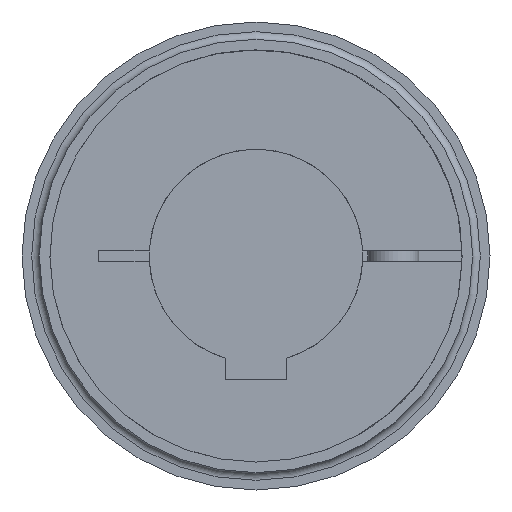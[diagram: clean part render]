
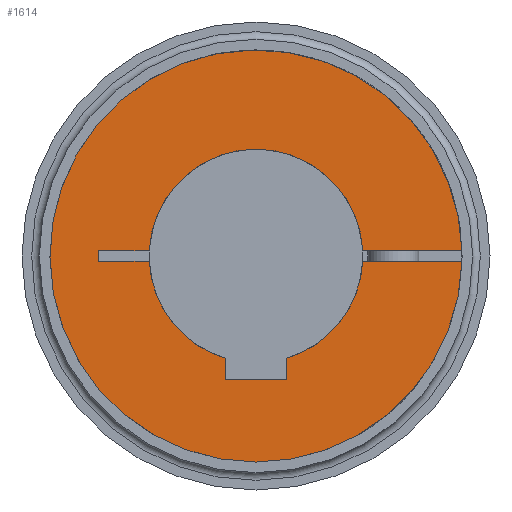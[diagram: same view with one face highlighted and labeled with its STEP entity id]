
A CAD part, left-side view. The second image highlights one B-rep face of the part: STEP entity #1614.
In plain terms, the highlighted planar face has unit normal (-1, 0, 0).
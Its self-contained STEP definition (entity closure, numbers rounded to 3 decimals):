
#24=PLANE('',#1855);
#149=LINE('',#2938,#252);
#152=LINE('',#2944,#255);
#153=LINE('',#2946,#256);
#164=LINE('',#2967,#267);
#165=LINE('',#2969,#268);
#166=LINE('',#2971,#269);
#167=LINE('',#2973,#270);
#168=LINE('',#2974,#271);
#252=VECTOR('',#2265,1.);
#255=VECTOR('',#2270,1.);
#256=VECTOR('',#2273,1.);
#267=VECTOR('',#2296,1.);
#268=VECTOR('',#2299,1.);
#269=VECTOR('',#2300,1.);
#270=VECTOR('',#2301,1.);
#271=VECTOR('',#2302,1.);
#387=FACE_OUTER_BOUND('',#490,.T.);
#490=EDGE_LOOP('',(#1332,#1333,#1334,#1335,#1336,#1337,#1338,#1339,#1340,
#1341,#1342,#1343,#1344));
#652=CIRCLE('',#1790,40.5);
#655=CIRCLE('',#1793,40.5);
#686=CIRCLE('',#1839,21.);
#689=CIRCLE('',#1843,21.);
#691=CIRCLE('',#1845,21.);
#761=VERTEX_POINT('',#2634);
#762=VERTEX_POINT('',#2636);
#767=VERTEX_POINT('',#2646);
#808=VERTEX_POINT('',#2908);
#809=VERTEX_POINT('',#2909);
#814=VERTEX_POINT('',#2920);
#815=VERTEX_POINT('',#2922);
#818=VERTEX_POINT('',#2928);
#819=VERTEX_POINT('',#2930);
#821=VERTEX_POINT('',#2936);
#823=VERTEX_POINT('',#2942);
#828=VERTEX_POINT('',#2970);
#829=VERTEX_POINT('',#2972);
#946=EDGE_CURVE('',#761,#762,#652,.T.);
#952=EDGE_CURVE('',#767,#761,#655,.T.);
#1005=EDGE_CURVE('',#808,#809,#686,.T.);
#1011=EDGE_CURVE('',#815,#814,#689,.T.);
#1015=EDGE_CURVE('',#819,#818,#691,.T.);
#1019=EDGE_CURVE('',#818,#821,#149,.T.);
#1022=EDGE_CURVE('',#821,#823,#152,.T.);
#1023=EDGE_CURVE('',#823,#815,#153,.T.);
#1034=EDGE_CURVE('',#809,#762,#164,.T.);
#1035=EDGE_CURVE('',#767,#819,#165,.T.);
#1036=EDGE_CURVE('',#814,#828,#166,.T.);
#1037=EDGE_CURVE('',#828,#829,#167,.T.);
#1038=EDGE_CURVE('',#829,#808,#168,.T.);
#1332=ORIENTED_EDGE('',*,*,#1005,.T.);
#1333=ORIENTED_EDGE('',*,*,#1034,.T.);
#1334=ORIENTED_EDGE('',*,*,#946,.F.);
#1335=ORIENTED_EDGE('',*,*,#952,.F.);
#1336=ORIENTED_EDGE('',*,*,#1035,.T.);
#1337=ORIENTED_EDGE('',*,*,#1015,.T.);
#1338=ORIENTED_EDGE('',*,*,#1019,.T.);
#1339=ORIENTED_EDGE('',*,*,#1022,.T.);
#1340=ORIENTED_EDGE('',*,*,#1023,.T.);
#1341=ORIENTED_EDGE('',*,*,#1011,.T.);
#1342=ORIENTED_EDGE('',*,*,#1036,.T.);
#1343=ORIENTED_EDGE('',*,*,#1037,.T.);
#1344=ORIENTED_EDGE('',*,*,#1038,.T.);
#1614=ADVANCED_FACE('',(#387),#24,.T.);
#1790=AXIS2_PLACEMENT_3D('',#2637,#2124,#2125);
#1793=AXIS2_PLACEMENT_3D('',#2648,#2133,#2134);
#1839=AXIS2_PLACEMENT_3D('',#2910,#2241,#2242);
#1843=AXIS2_PLACEMENT_3D('',#2923,#2252,#2253);
#1845=AXIS2_PLACEMENT_3D('',#2931,#2258,#2259);
#1855=AXIS2_PLACEMENT_3D('',#2968,#2297,#2298);
#2124=DIRECTION('center_axis',(1.,0.,0.));
#2125=DIRECTION('ref_axis',(0.,0.,1.));
#2133=DIRECTION('center_axis',(1.,0.,0.));
#2134=DIRECTION('ref_axis',(0.,0.,1.));
#2241=DIRECTION('center_axis',(1.,0.,0.));
#2242=DIRECTION('ref_axis',(0.,0.,-1.));
#2252=DIRECTION('center_axis',(1.,0.,0.));
#2253=DIRECTION('ref_axis',(0.,0.,-1.));
#2258=DIRECTION('center_axis',(1.,0.,0.));
#2259=DIRECTION('ref_axis',(0.,0.,-1.));
#2265=DIRECTION('',(0.,0.,-1.));
#2270=DIRECTION('',(0.,1.,0.));
#2273=DIRECTION('',(0.,0.,1.));
#2296=DIRECTION('',(0.,-1.,0.));
#2297=DIRECTION('center_axis',(-1.,0.,0.));
#2298=DIRECTION('ref_axis',(0.,0.,-1.));
#2299=DIRECTION('',(0.,1.,0.));
#2300=DIRECTION('',(0.,1.,0.));
#2301=DIRECTION('',(0.,0.,1.));
#2302=DIRECTION('',(0.,-1.,0.));
#2634=CARTESIAN_POINT('',(0.,0.,-40.5));
#2636=CARTESIAN_POINT('',(0.,-40.488,1.));
#2637=CARTESIAN_POINT('Origin',(0.,0.,0.));
#2646=CARTESIAN_POINT('',(0.,-40.488,-1.));
#2648=CARTESIAN_POINT('Origin',(0.,0.,0.));
#2908=CARTESIAN_POINT('',(0.,20.976,1.));
#2909=CARTESIAN_POINT('',(0.,-20.976,1.));
#2910=CARTESIAN_POINT('Origin',(0.,0.,0.));
#2920=CARTESIAN_POINT('',(0.,20.976,-1.));
#2922=CARTESIAN_POINT('',(0.,6.,-20.125));
#2923=CARTESIAN_POINT('Origin',(0.,0.,0.));
#2928=CARTESIAN_POINT('',(0.,-6.,-20.125));
#2930=CARTESIAN_POINT('',(0.,-20.976,-1.));
#2931=CARTESIAN_POINT('Origin',(0.,0.,0.));
#2936=CARTESIAN_POINT('',(0.,-6.,-24.3));
#2938=CARTESIAN_POINT('',(0.,-6.,4.05));
#2942=CARTESIAN_POINT('',(0.,6.,-24.3));
#2944=CARTESIAN_POINT('',(0.,0.,-24.3));
#2946=CARTESIAN_POINT('',(0.,6.,4.05));
#2967=CARTESIAN_POINT('',(0.,-2.625,1.));
#2968=CARTESIAN_POINT('Origin',(0.,0.,20.25));
#2969=CARTESIAN_POINT('',(0.,-2.625,-1.));
#2970=CARTESIAN_POINT('',(0.,31.,-1.));
#2971=CARTESIAN_POINT('',(0.,-2.625,-1.));
#2972=CARTESIAN_POINT('',(0.,31.,1.));
#2973=CARTESIAN_POINT('',(0.,31.,10.125));
#2974=CARTESIAN_POINT('',(0.,-2.625,1.));
